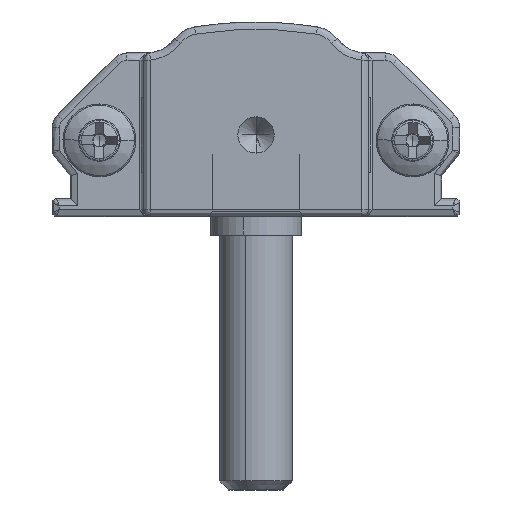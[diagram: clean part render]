
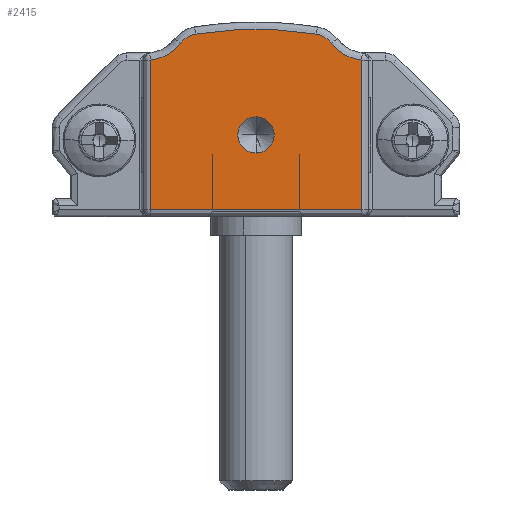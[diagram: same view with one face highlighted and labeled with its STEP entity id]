
A CAD part, front view. The second image highlights one B-rep face of the part: STEP entity #2415.
In plain terms, the highlighted planar face has unit normal (0, -1, 0).
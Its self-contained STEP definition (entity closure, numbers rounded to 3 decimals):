
#470 = LINE ( 'NONE', #32447, #1710 ) ;
#885 = CARTESIAN_POINT ( 'NONE',  ( 11.2, -15., 4.5 ) ) ;
#1060 = CARTESIAN_POINT ( 'NONE',  ( 5.4, -15., 0.4 ) ) ;
#1334 = DIRECTION ( 'NONE',  ( 0., -1., 0. ) ) ;
#1710 = VECTOR ( 'NONE', #39754, 1000. ) ;
#2415 = ADVANCED_FACE ( 'NONE', ( #27724, #13666 ), #24681, .T. ) ;
#2914 = DIRECTION ( 'NONE',  ( 0., -1., 0. ) ) ;
#4076 = CARTESIAN_POINT ( 'NONE',  ( 11.2, -15., 5.5 ) ) ;
#4121 = CARTESIAN_POINT ( 'NONE',  ( 11.2, -15., -10.376 ) ) ;
#4157 = EDGE_LOOP ( 'NONE', ( #22709, #24863 ) ) ;
#4825 = ORIENTED_EDGE ( 'NONE', *, *, #31629, .T. ) ;
#5425 = DIRECTION ( 'NONE',  ( 0., 0., -1. ) ) ;
#5491 = CARTESIAN_POINT ( 'NONE',  ( 8.1, -15., 8.75 ) ) ;
#5929 = DIRECTION ( 'NONE',  ( 0., 1., 0. ) ) ;
#8118 = CARTESIAN_POINT ( 'NONE',  ( 5.4, -15., 0.4 ) ) ;
#8241 = CIRCLE ( 'NONE', #12723, 1. ) ;
#8547 = LINE ( 'NONE', #26360, #11308 ) ;
#9757 = EDGE_CURVE ( 'NONE', #42758, #36678, #470, .T. ) ;
#9897 = VERTEX_POINT ( 'NONE', #37378 ) ;
#10835 = CIRCLE ( 'NONE', #44619, 2.4 ) ;
#11104 = CIRCLE ( 'NONE', #31322, 1.3 ) ;
#11308 = VECTOR ( 'NONE', #21927, 1000. ) ;
#11693 = DIRECTION ( 'NONE',  ( 0., 0., -1. ) ) ;
#11973 = VERTEX_POINT ( 'NONE', #30161 ) ;
#12025 = CIRCLE ( 'NONE', #32264, 1.3 ) ;
#12175 = ORIENTED_EDGE ( 'NONE', *, *, #38482, .T. ) ;
#12723 = AXIS2_PLACEMENT_3D ( 'NONE', #14559, #43009, #43948 ) ;
#13049 = ORIENTED_EDGE ( 'NONE', *, *, #9757, .T. ) ;
#13345 = CARTESIAN_POINT ( 'NONE',  ( 7.892, -15., 10.034 ) ) ;
#13404 = CIRCLE ( 'NONE', #14259, 2.4 ) ;
#13666 = FACE_BOUND ( 'NONE', #4157, .T. ) ;
#14259 = AXIS2_PLACEMENT_3D ( 'NONE', #16530, #5929, #27555 ) ;
#14455 = CARTESIAN_POINT ( 'NONE',  ( 5.4, -15., 8.612 ) ) ;
#14559 = CARTESIAN_POINT ( 'NONE',  ( 11.2, -15., 4.5 ) ) ;
#15230 = DIRECTION ( 'NONE',  ( 0., 0., -1. ) ) ;
#15462 = EDGE_LOOP ( 'NONE', ( #17813, #34751, #4825, #28079, #33740, #15692, #12175, #13049 ) ) ;
#15692 = ORIENTED_EDGE ( 'NONE', *, *, #32004, .T. ) ;
#16530 = CARTESIAN_POINT ( 'NONE',  ( 17.238, -15., 11. ) ) ;
#17281 = DIRECTION ( 'NONE',  ( 0., 0., -1. ) ) ;
#17813 = ORIENTED_EDGE ( 'NONE', *, *, #44281, .T. ) ;
#20222 = VECTOR ( 'NONE', #11693, 1000. ) ;
#20332 = CARTESIAN_POINT ( 'NONE',  ( 14.3, -15., 8.75 ) ) ;
#21927 = DIRECTION ( 'NONE',  ( 0., 0., 1. ) ) ;
#22480 = DIRECTION ( 'NONE',  ( 0., -1., 0. ) ) ;
#22618 = CARTESIAN_POINT ( 'NONE',  ( 5.162, -15., 11. ) ) ;
#22709 = ORIENTED_EDGE ( 'NONE', *, *, #36419, .F. ) ;
#23306 = DIRECTION ( 'NONE',  ( 0., 1., 0. ) ) ;
#24594 = EDGE_CURVE ( 'NONE', #35276, #11973, #45891, .T. ) ;
#24681 = PLANE ( 'NONE',  #29564 ) ;
#24863 = ORIENTED_EDGE ( 'NONE', *, *, #24594, .F. ) ;
#26168 = CARTESIAN_POINT ( 'NONE',  ( 14.508, -15., 10.034 ) ) ;
#26360 = CARTESIAN_POINT ( 'NONE',  ( 17., -15., 8.612 ) ) ;
#27555 = DIRECTION ( 'NONE',  ( 0., 0., -1. ) ) ;
#27724 = FACE_OUTER_BOUND ( 'NONE', #15462, .T. ) ;
#27954 = DIRECTION ( 'NONE',  ( 0., -1., 0. ) ) ;
#28079 = ORIENTED_EDGE ( 'NONE', *, *, #41717, .T. ) ;
#28214 = VERTEX_POINT ( 'NONE', #31705 ) ;
#28325 = VERTEX_POINT ( 'NONE', #14455 ) ;
#29055 = DIRECTION ( 'NONE',  ( 0., 0., -1. ) ) ;
#29564 = AXIS2_PLACEMENT_3D ( 'NONE', #34578, #27954, #40608 ) ;
#30161 = CARTESIAN_POINT ( 'NONE',  ( 11.2, -15., 3.5 ) ) ;
#31322 = AXIS2_PLACEMENT_3D ( 'NONE', #20332, #2914, #17281 ) ;
#31629 = EDGE_CURVE ( 'NONE', #9897, #34584, #11104, .T. ) ;
#31705 = CARTESIAN_POINT ( 'NONE',  ( 7.068, -15., 9.541 ) ) ;
#31851 = CIRCLE ( 'NONE', #39362, 20.676 ) ;
#32004 = EDGE_CURVE ( 'NONE', #28214, #28325, #10835, .T. ) ;
#32264 = AXIS2_PLACEMENT_3D ( 'NONE', #5491, #37954, #37498 ) ;
#32447 = CARTESIAN_POINT ( 'NONE',  ( 17., -15., 0.4 ) ) ;
#32834 = LINE ( 'NONE', #1060, #20222 ) ;
#33180 = CARTESIAN_POINT ( 'NONE',  ( 17., -15., 8.612 ) ) ;
#33740 = ORIENTED_EDGE ( 'NONE', *, *, #38597, .T. ) ;
#34575 = AXIS2_PLACEMENT_3D ( 'NONE', #885, #1334, #15230 ) ;
#34578 = CARTESIAN_POINT ( 'NONE',  ( 22.15, -15., 3.606 ) ) ;
#34584 = VERTEX_POINT ( 'NONE', #26168 ) ;
#34751 = ORIENTED_EDGE ( 'NONE', *, *, #44023, .T. ) ;
#35276 = VERTEX_POINT ( 'NONE', #4076 ) ;
#36419 = EDGE_CURVE ( 'NONE', #11973, #35276, #8241, .T. ) ;
#36678 = VERTEX_POINT ( 'NONE', #46043 ) ;
#37378 = CARTESIAN_POINT ( 'NONE',  ( 15.332, -15., 9.541 ) ) ;
#37498 = DIRECTION ( 'NONE',  ( 0., 0., -1. ) ) ;
#37954 = DIRECTION ( 'NONE',  ( 0., -1., 0. ) ) ;
#38482 = EDGE_CURVE ( 'NONE', #28325, #42758, #32834, .T. ) ;
#38597 = EDGE_CURVE ( 'NONE', #40857, #28214, #12025, .T. ) ;
#39177 = VERTEX_POINT ( 'NONE', #33180 ) ;
#39362 = AXIS2_PLACEMENT_3D ( 'NONE', #4121, #22480, #29055 ) ;
#39754 = DIRECTION ( 'NONE',  ( 1., 0., 0. ) ) ;
#40608 = DIRECTION ( 'NONE',  ( 0., 0., -1. ) ) ;
#40857 = VERTEX_POINT ( 'NONE', #13345 ) ;
#41717 = EDGE_CURVE ( 'NONE', #34584, #40857, #31851, .T. ) ;
#42758 = VERTEX_POINT ( 'NONE', #8118 ) ;
#43009 = DIRECTION ( 'NONE',  ( 0., -1., 0. ) ) ;
#43948 = DIRECTION ( 'NONE',  ( 0., 0., -1. ) ) ;
#44023 = EDGE_CURVE ( 'NONE', #39177, #9897, #13404, .T. ) ;
#44281 = EDGE_CURVE ( 'NONE', #36678, #39177, #8547, .T. ) ;
#44619 = AXIS2_PLACEMENT_3D ( 'NONE', #22618, #23306, #5425 ) ;
#45891 = CIRCLE ( 'NONE', #34575, 1. ) ;
#46043 = CARTESIAN_POINT ( 'NONE',  ( 17., -15., 0.4 ) ) ;
